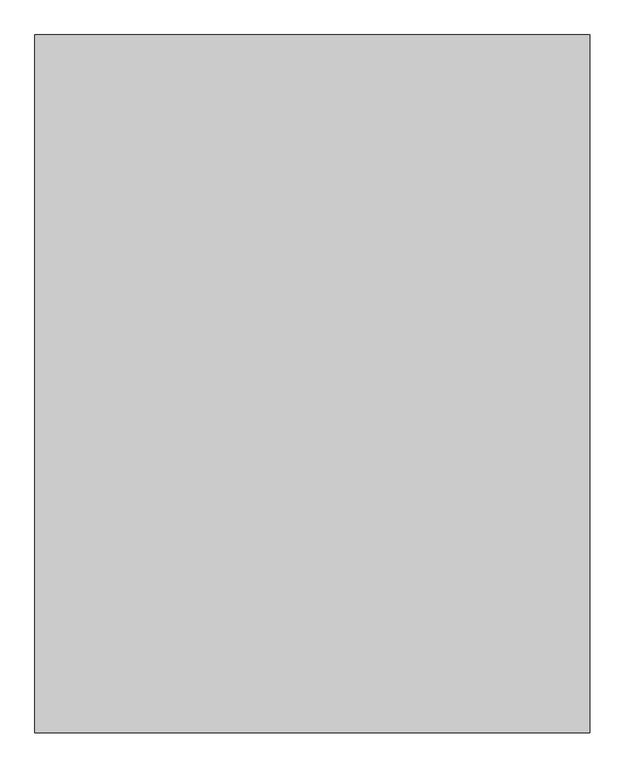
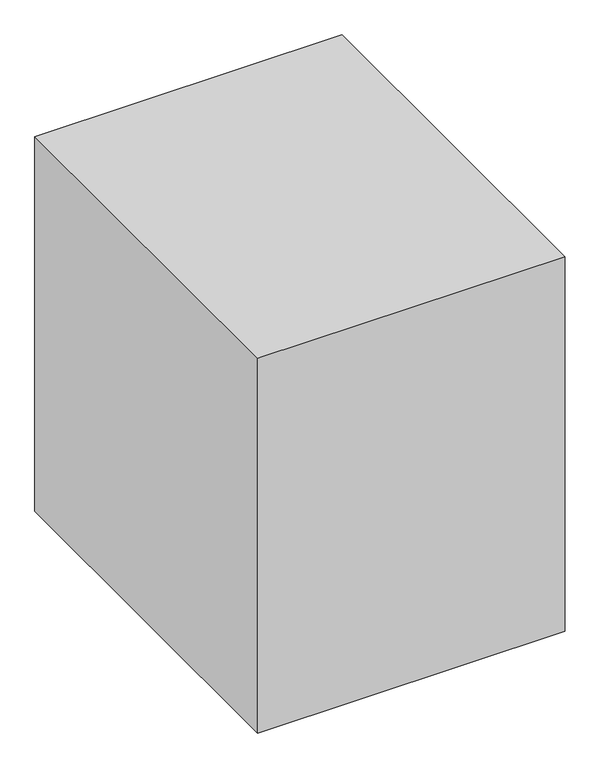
"""IFC4 building model written with IfcOpenShell, lengths in millimetres: furniture geometry, BIMHealth-Desk_Consultant_1000x600-LOD2A-v1 : BIMHealth-Desk_Consultant_1000x600-LOD2A-v1."""

from ifc_helpers import new_model, si_unit, frame, origin, origin_with_axes, place, context, project, spatial, polyline, outline, extrude, source, transform, mapped, element, save


def furniture_1c857b10(model_context):
    return source(origin(), model_context, "Body", "SweptSolid", [
        extrude(outline(polyline([(885.0, 517.5), (115.0, 517.5), (115.0, 550.0), (885.0, 550.0), (885.0, 517.5)])), frame((0.0, 0.0, 560.0), z_axis=(0.0, 0.0, 1.0), x_axis=(1.0, 0.0, 0.0)), (0.0, 0.0, 1.0), 100.0),
        extrude(outline(polyline([(885.0, 82.5), (885.0, 50.0), (115.0, 50.0), (115.0, 82.5), (885.0, 82.5)])), frame((0.0, 0.0, 560.0), z_axis=(0.0, 0.0, 1.0), x_axis=(1.0, 0.0, 0.0)), (0.0, 0.0, 1.0), 100.0),
        extrude(outline(polyline([(50.0, 485.0), (82.5, 485.0), (82.5, 115.0), (50.0, 115.0), (50.0, 485.0)])), frame((0.0, 0.0, 560.0), z_axis=(0.0, 0.0, 1.0), x_axis=(1.0, 0.0, 0.0)), (0.0, 0.0, 1.0), 100.0),
        extrude(outline(polyline([(950.0, 485.0), (950.0, 115.0), (917.5, 115.0), (917.5, 485.0), (950.0, 485.0)])), frame((0.0, 0.0, 560.0), z_axis=(0.0, 0.0, 1.0), x_axis=(1.0, 0.0, 0.0)), (0.0, 0.0, 1.0), 100.0),
        extrude(outline(polyline([(11.3672628, 33.4729978), (18.8239936, 33.4729978), (21.9802436, 33.1340555), (24.1220705, 32.1340555), (25.5571666, 30.2494401), (26.1364936, 27.6028055), (25.2879359, 24.5403055), (22.8624551, 22.703767), (24.8600513, 20.9609786), (25.521109, 18.6604978), (24.7350513, 16.141267), (22.5619743, 14.360017), (18.8816859, 13.7806901), (11.3672628, 13.7806901), (11.3672628, 33.4729978)]), holes=[polyline([(13.8288013, 21.7806901), (13.8288013, 16.2422286), (17.9826474, 16.2422286), (21.146109, 16.4994401), (22.5643782, 17.4489594), (23.0595705, 19.0547286), (22.5283205, 20.658094), (20.9489936, 21.5691517), (18.3239936, 21.7806901), (13.8288013, 21.7806901)]), polyline([(13.8288013, 31.0114594), (13.8288013, 24.2422286), (18.6364936, 24.2422286), (21.677359, 24.5715555), (23.2038013, 25.7133824), (23.6749551, 27.626844), (22.2494743, 30.3792478), (20.7038013, 30.9153055), (18.8768782, 31.0114594), (13.8288013, 31.0114594)])]), frame((0.0, 0.0, 700.0), z_axis=(0.0, 0.0, 1.0), x_axis=(1.0, 0.0, 0.0)), (0.0, 0.0, 1.0), 2.5),
        extrude(outline(polyline([(29.8288013, 33.4729978), (32.2903397, 33.4729978), (32.2903397, 13.7806901), (29.8288013, 13.7806901), (29.8288013, 33.4729978)])), frame((0.0, 0.0, 700.0), z_axis=(0.0, 0.0, 1.0), x_axis=(1.0, 0.0, 0.0)), (0.0, 0.0, 1.0), 2.5),
        extrude(outline(polyline([(37.2134166, 33.4729978), (39.6749551, 33.4729978), (39.6749551, 16.2422286), (44.6268782, 33.4729978), (47.958609, 33.4729978), (52.9057243, 16.2422286), (52.9057243, 33.4729978), (55.3672628, 33.4729978), (55.3672628, 13.7806901), (51.1316859, 13.7806901), (47.1701474, 27.4201132), (46.2903397, 30.5595363), (45.473032, 27.6604978), (41.4345705, 13.7806901), (37.2134166, 13.7806901), (37.2134166, 33.4729978)])), frame((0.0, 0.0, 700.0), z_axis=(0.0, 0.0, 1.0), x_axis=(1.0, 0.0, 0.0)), (0.0, 0.0, 1.0), 2.5),
        extrude(outline(polyline([(59.6749551, 33.4729978), (62.1364936, 33.4729978), (62.1364936, 24.2422286), (72.598032, 24.2422286), (72.598032, 33.4729978), (75.0595705, 33.4729978), (75.0595705, 13.7806901), (72.598032, 13.7806901), (72.598032, 21.7806901), (62.1364936, 21.7806901), (62.1364936, 13.7806901), (59.6749551, 13.7806901), (59.6749551, 33.4729978)])), frame((0.0, 0.0, 700.0), z_axis=(0.0, 0.0, 1.0), x_axis=(1.0, 0.0, 0.0)), (0.0, 0.0, 1.0), 2.5),
        extrude(outline(polyline([(89.1845705, 29.1653055), (87.598032, 30.8047286), (85.1845705, 31.3191517), (82.0138974, 30.2085747), (80.598032, 27.0114594), (91.6749551, 26.3479978), (89.8071666, 20.7085747), (84.9970705, 18.703767), (80.0451474, 20.7133824), (78.1364936, 26.3624209), (80.0259166, 31.8311709), (85.1364936, 33.7806901), (89.3408205, 32.6508824), (91.598032, 29.4729978), (89.1845705, 29.1653055)]), holes=[polyline([(80.598032, 24.5499209), (81.9562051, 22.0859786), (84.9874551, 21.1653055), (88.2278397, 22.3191517), (89.2134166, 24.5499209), (80.598032, 24.5499209)])]), frame((0.0, 0.0, 700.0), z_axis=(0.0, 0.0, 1.0), x_axis=(1.0, 0.0, 0.0)), (0.0, 0.0, 1.0), 2.5),
        extrude(outline(polyline([(103.3672628, 31.626844), (103.9826474, 33.4729978), (106.4441859, 33.4729978), (105.9538013, 31.4032863), (105.8288013, 27.126844), (105.8288013, 24.064344), (105.708609, 21.9104978), (104.9538013, 20.2398247), (103.2687051, 19.141267), (100.285532, 18.703767), (97.0379359, 19.1989594), (94.8937051, 20.6076132), (93.8288013, 23.0114594), (96.2903397, 23.3191517), (97.4778397, 21.6388632), (99.9682243, 21.1653055), (102.6893782, 21.876844), (103.3528397, 24.2422286), (99.083609, 25.0883824), (96.9538013, 25.4585747), (95.2302436, 26.266267), (93.9922628, 27.6797286), (93.521109, 29.626844), (94.7687051, 32.6124209), (98.3432243, 33.7806901), (100.9802436, 33.2951132), (103.3672628, 31.626844)]), holes=[polyline([(103.3600513, 27.0523247), (102.9634166, 29.3047286), (101.3576474, 30.7302094), (98.8672628, 31.3191517), (97.2783205, 27.8576132), (99.396109, 27.4585747), (103.3600513, 27.0523247)])]), frame((0.0, 0.0, 700.0), z_axis=(0.0, 0.0, 1.0), x_axis=(1.0, 0.0, 0.0)), (0.0, 0.0, 1.0), 2.5),
        extrude(outline(polyline([(109.2134166, 33.4729978), (111.6749551, 33.4729978), (111.6749551, 13.7806901), (109.2134166, 13.7806901), (109.2134166, 33.4729978)])), frame((0.0, 0.0, 700.0), z_axis=(0.0, 0.0, 1.0), x_axis=(1.0, 0.0, 0.0)), (0.0, 0.0, 1.0), 2.5),
        extrude(outline(polyline([(119.3672628, 30.4273247), (118.1364936, 21.4729978), (120.598032, 21.4729978), (120.598032, 19.0114594), (118.1364936, 19.0114594), (118.1364936, 14.0499209), (115.6749551, 15.4970363), (115.6749551, 19.0114594), (113.8288013, 19.0114594), (113.8288013, 21.4729978), (115.6749551, 21.4729978), (115.6749551, 29.5066517), (117.0018782, 33.3720363), (119.0643782, 33.7806901), (120.9057243, 33.5451132), (119.3672628, 30.4273247)])), frame((0.0, 0.0, 700.0), z_axis=(0.0, 0.0, 1.0), x_axis=(1.0, 0.0, 0.0)), (0.0, 0.0, 1.0), 2.5),
        extrude(outline(polyline([(123.0595705, 33.4729978), (125.521109, 33.4729978), (125.521109, 25.7903055), (125.9225513, 23.1989594), (127.2687051, 21.7133824), (129.285532, 21.1653055), (131.5066859, 21.9778055), (132.2903397, 24.5739594), (132.2903397, 33.4729978), (134.7518782, 33.4729978), (134.7518782, 24.3191517), (134.2470705, 21.0835747), (132.5691859, 19.3359786), (129.8047628, 18.703767), (125.521109, 21.0210747), (125.521109, 13.7806901), (123.0595705, 13.7806901), (123.0595705, 33.4729978)])), frame((0.0, 0.0, 700.0), z_axis=(0.0, 0.0, 1.0), x_axis=(1.0, 0.0, 0.0)), (0.0, 0.0, 1.0), 2.5),
        extrude(outline(polyline([(950.0, 485.0), (885.0, 485.0), (885.0, 550.0), (950.0, 550.0), (950.0, 485.0)])), origin_with_axes(), (0.0, 0.0, 1.0), 660.0),
        extrude(outline(polyline([(950.0, 115.0), (950.0, 50.0), (885.0, 50.0), (885.0, 115.0), (950.0, 115.0)])), origin_with_axes(), (0.0, 0.0, 1.0), 660.0),
        extrude(outline(polyline([(50.0, 485.0), (50.0, 550.0), (115.0, 550.0), (115.0, 485.0), (50.0, 485.0)])), origin_with_axes(), (0.0, 0.0, 1.0), 660.0),
        extrude(outline(polyline([(50.0, 115.0), (115.0, 115.0), (115.0, 50.0), (50.0, 50.0), (50.0, 115.0)])), origin_with_axes(), (0.0, 0.0, 1.0), 660.0),
        extrude(outline(polyline([(1000.0, 0.0), (0.0, 0.0), (0.0, 600.0), (1000.0, 600.0), (1000.0, 0.0)])), frame((0.0, 0.0, 660.0), z_axis=(0.0, 0.0, 1.0), x_axis=(1.0, 0.0, 0.0)), (0.0, 0.0, 1.0), 40.0),
        extrude(outline(polyline([(1500.0, 1350.0), (1500.0, -600.0), (-50.0, -600.0), (-50.0, 1350.0), (1500.0, 1350.0)])), origin_with_axes(), (0.0, 0.0, 1.0), 2000.205521),
    ])


if __name__ == "__main__":
    model = new_model("IFC4")
    model_context = context("Model", 3, world=origin())
    ifc_project = project(units=[si_unit("LENGTHUNIT", "METRE", prefix="MILLI")], contexts=[model_context])
    site = spatial("IfcSite", under=ifc_project)
    building = spatial("IfcBuilding", under=site)
    placement = place(None, origin())
    furniture_shape = furniture_1c857b10(model_context)
    element("IfcFurniture", 1, ObjectType="BIMHealth-Desk_Consultant_1000x600-LOD2A-v1 : BIMHealth-Desk_Consultant_1000x600-LOD2A-v1", at=placement, inside=building, context=model_context, shape_type="MappedRepresentation", body=[
        mapped(furniture_shape, transform((0.0, 0.0, 0.0), x_axis=(1.0, 0.0, 0.0), y_axis=(0.0, 1.0, 0.0), z_axis=(0.0, 0.0, 1.0))),
    ])
    save(model, "model.ifc")
